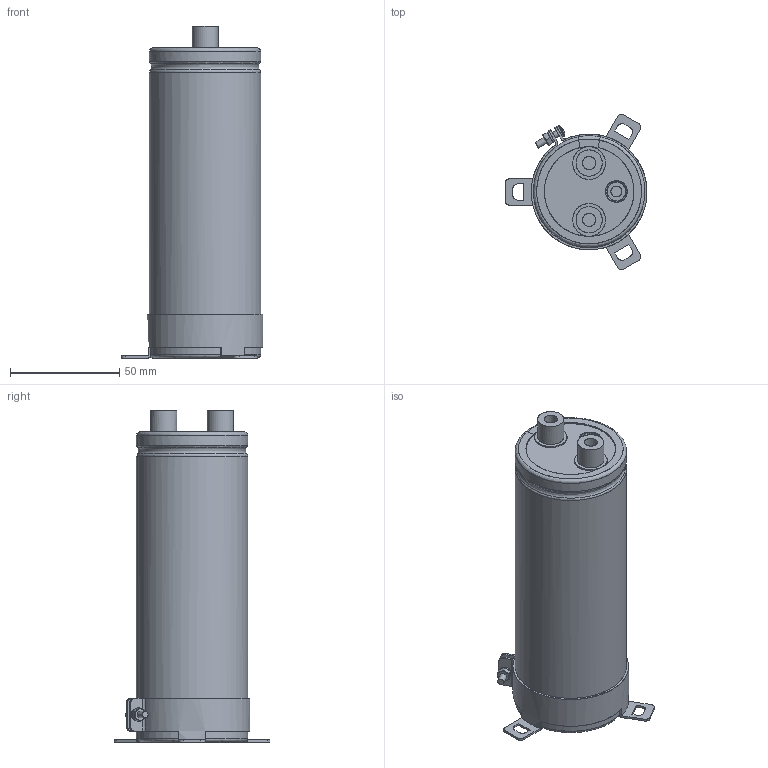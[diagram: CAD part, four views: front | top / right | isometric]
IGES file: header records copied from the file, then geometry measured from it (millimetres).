
Start section: JAMA-IS VERSION  1.0
Bounding box: 65 x 71.22 x 152 mm (x, y, z)
Surface area: 82733 mm2 (no closed solid volume)
Topology: 0 solids, 0 shells, 257 faces, 4348 edges, 4319 vertices
Faces by surface type: bspline 257
